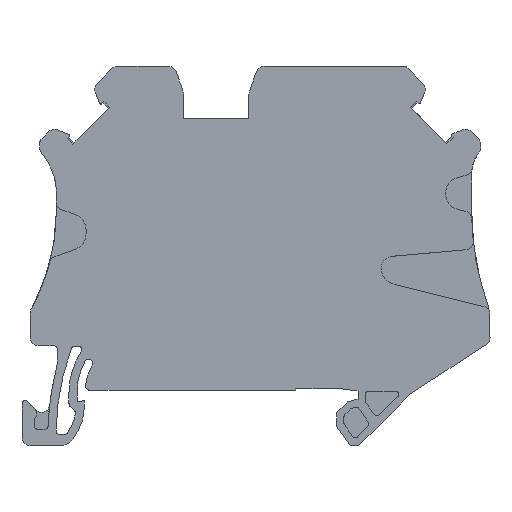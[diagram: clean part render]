
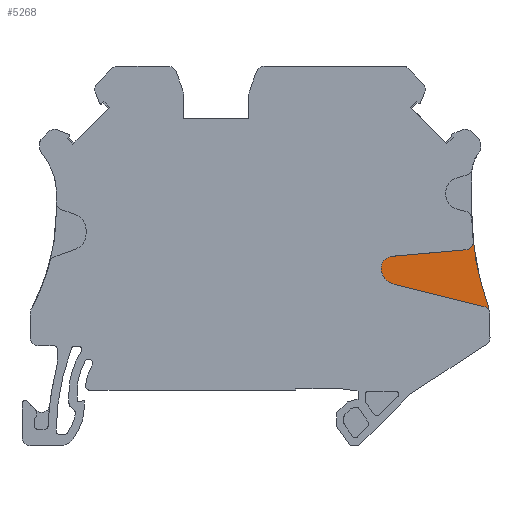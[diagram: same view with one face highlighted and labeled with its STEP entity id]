
A CAD part, front view. The second image highlights one B-rep face of the part: STEP entity #5268.
In plain terms, the highlighted planar face has unit normal (0, -1, 0).
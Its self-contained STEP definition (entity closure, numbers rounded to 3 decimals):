
#121=CARTESIAN_POINT('',(-14.426,-0.118,-0.01));
#122=VERTEX_POINT('',#121);
#129=CARTESIAN_POINT('',(-16.674,-0.118,-0.207));
#130=VERTEX_POINT('',#129);
#131=CARTESIAN_POINT('',(-14.426,-0.118,-0.01));
#132=DIRECTION('',(-0.996,0.,-0.087));
#133=VECTOR('',#132,2.257);
#134=LINE('',#131,#133);
#135=EDGE_CURVE('',#122,#130,#134,.T.);
#5188=CARTESIAN_POINT('',(-10.913,-0.118,-2.775));
#5189=DIRECTION('',(0.,0.,1.));
#5190=DIRECTION('',(0.,1.,0.));
#5191=AXIS2_PLACEMENT_3D('',#5188,#5190,#5189);
#5192=PLANE('',#5191);
#5193=CARTESIAN_POINT('',(-15.64,-0.118,-6.565));
#5194=VERTEX_POINT('',#5193);
#5195=CARTESIAN_POINT('',(-3.833,-0.118,-8.225));
#5196=VERTEX_POINT('',#5195);
#5197=CARTESIAN_POINT('',(-15.64,-0.118,-6.565));
#5198=DIRECTION('',(0.99,0.,-0.139));
#5199=VECTOR('',#5198,11.924);
#5200=LINE('',#5197,#5199);
#5201=EDGE_CURVE('',#5194,#5196,#5200,.T.);
#5202=ORIENTED_EDGE('E274',*,*,#5201,.F.);
#5203=CARTESIAN_POINT('',(-17.747,-0.118,-5.338));
#5204=VERTEX_POINT('',#5203);
#5205=CARTESIAN_POINT('',(-15.64,-0.118,-6.565));
#5206=DIRECTION('',(-0.864,0.,0.503));
#5207=VECTOR('',#5206,2.438);
#5208=LINE('',#5205,#5207);
#5209=EDGE_CURVE('',#5194,#5204,#5208,.T.);
#5210=ORIENTED_EDGE('E275',*,*,#5209,.T.);
#5211=CARTESIAN_POINT('',(-17.994,-0.118,-5.194));
#5212=VERTEX_POINT('',#5211);
#5213=CARTESIAN_POINT('',(-17.994,-0.118,-5.194));
#5214=DIRECTION('',(0.864,0.,-0.503));
#5215=VECTOR('',#5214,0.286);
#5216=LINE('',#5213,#5215);
#5217=EDGE_CURVE('',#5212,#5204,#5216,.T.);
#5218=ORIENTED_EDGE('E276',*,*,#5217,.F.);
#5219=CARTESIAN_POINT('',(-17.994,-0.118,-0.207));
#5220=VERTEX_POINT('',#5219);
#5221=CARTESIAN_POINT('',(-17.994,-0.118,-5.194));
#5222=DIRECTION('',(0.,0.,1.));
#5223=VECTOR('',#5222,4.987);
#5224=LINE('',#5221,#5223);
#5225=EDGE_CURVE('',#5212,#5220,#5224,.T.);
#5226=ORIENTED_EDGE('E277',*,*,#5225,.T.);
#5227=CARTESIAN_POINT('',(-17.994,-0.118,-0.207));
#5228=DIRECTION('',(1.,0.,0.));
#5229=VECTOR('',#5228,1.32);
#5230=LINE('',#5227,#5229);
#5231=EDGE_CURVE('',#5220,#130,#5230,.T.);
#5232=ORIENTED_EDGE('E278',*,*,#5231,.T.);
#5233=ORIENTED_EDGE('E278',*,*,#135,.F.);
#5234=CARTESIAN_POINT('',(-5.948,-0.118,2.262));
#5235=VERTEX_POINT('',#5234);
#5236=CARTESIAN_POINT('',(-14.426,-0.118,-0.01));
#5237=DIRECTION('',(0.966,0.,0.259));
#5238=VECTOR('',#5237,8.777);
#5239=LINE('',#5236,#5238);
#5240=EDGE_CURVE('',#122,#5235,#5239,.T.);
#5241=ORIENTED_EDGE('E273',*,*,#5240,.T.);
#5242=CARTESIAN_POINT('',(-3.958,-0.118,-6.551));
#5243=VERTEX_POINT('',#5242);
#5244=CARTESIAN_POINT('',(27.917,-0.118,5.281));
#5245=DIRECTION('',(-0.996,0.,-0.089));
#5246=DIRECTION('',(0.,-1.,0.));
#5247=AXIS2_PLACEMENT_3D('',#5244,#5246,#5245);
#5248=CIRCLE('',#5247,34.);
#5249=EDGE_CURVE('',#5235,#5243,#5248,.T.);
#5250=ORIENTED_EDGE('E279',*,*,#5249,.T.);
#5251=CARTESIAN_POINT('',(-3.833,-0.118,-7.247));
#5252=VERTEX_POINT('',#5251);
#5253=CARTESIAN_POINT('',(-5.833,-0.118,-7.247));
#5254=DIRECTION('',(1.,0.,0.));
#5255=DIRECTION('',(0.,-1.,0.));
#5256=AXIS2_PLACEMENT_3D('',#5253,#5255,#5254);
#5257=CIRCLE('',#5256,2.);
#5258=EDGE_CURVE('',#5252,#5243,#5257,.T.);
#5259=ORIENTED_EDGE('E280',*,*,#5258,.F.);
#5260=CARTESIAN_POINT('',(-3.833,-0.118,-7.247));
#5261=DIRECTION('',(0.,0.,-1.));
#5262=VECTOR('',#5261,0.978);
#5263=LINE('',#5260,#5262);
#5264=EDGE_CURVE('',#5252,#5196,#5263,.T.);
#5265=ORIENTED_EDGE('E281',*,*,#5264,.T.);
#5266=EDGE_LOOP('',(#5202,#5210,#5218,#5226,#5232,#5233,#5241,#5250,#5259,#5265));
#5267=FACE_OUTER_BOUND('',#5266,.F.);
#5268=ADVANCED_FACE('F155',(#5267),#5192,.F.);
